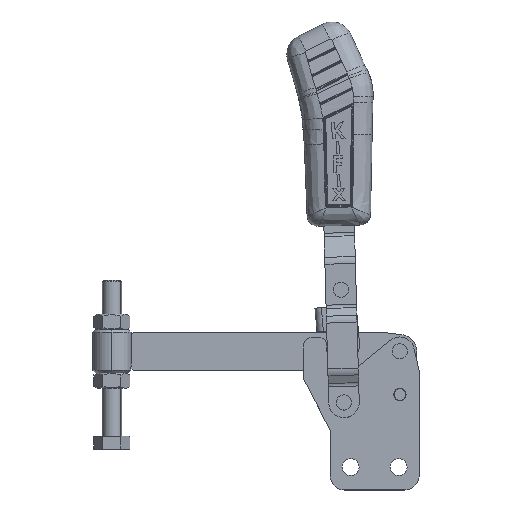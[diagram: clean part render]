
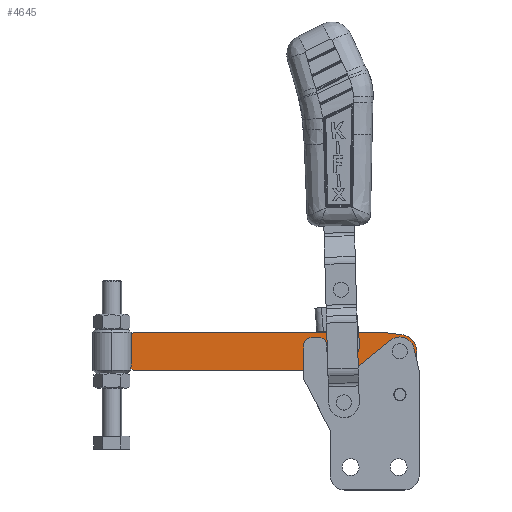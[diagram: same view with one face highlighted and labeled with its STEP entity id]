
A CAD part, top view. The second image highlights one B-rep face of the part: STEP entity #4645.
In plain terms, the highlighted planar face has unit normal (0, 0, 1) as drawn and (0, 0, -1) by its records, which use the part's own axes.
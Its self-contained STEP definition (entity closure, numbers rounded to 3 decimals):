
#159 = CARTESIAN_POINT ( 'NONE',  ( -1., 8., -6.35 ) ) ;
#628 = LINE ( 'NONE', #21246, #18148 ) ;
#853 = VERTEX_POINT ( 'NONE', #18232 ) ;
#918 = ORIENTED_EDGE ( 'NONE', *, *, #16317, .F. ) ;
#1201 = VECTOR ( 'NONE', #4287, 1000. ) ;
#1224 = DIRECTION ( 'NONE',  ( 1., 0., 0. ) ) ;
#1349 = VERTEX_POINT ( 'NONE', #4240 ) ;
#1619 = CIRCLE ( 'NONE', #7557, 2.45 ) ;
#1624 = EDGE_CURVE ( 'NONE', #17035, #853, #6027, .T. ) ;
#1768 = ORIENTED_EDGE ( 'NONE', *, *, #16146, .F. ) ;
#1927 = EDGE_LOOP ( 'NONE', ( #5846, #4398 ) ) ;
#1934 = AXIS2_PLACEMENT_3D ( 'NONE', #18536, #8288, #20231 ) ;
#2002 = DIRECTION ( 'NONE',  ( -0.993, -0.119, 0. ) ) ;
#2075 = VECTOR ( 'NONE', #21258, 1000. ) ;
#2086 = CARTESIAN_POINT ( 'NONE',  ( 0., -8., -6.35 ) ) ;
#2483 = CARTESIAN_POINT ( 'NONE',  ( -119., -2.236, -6.35 ) ) ;
#2525 = ORIENTED_EDGE ( 'NONE', *, *, #1624, .T. ) ;
#2698 = DIRECTION ( 'NONE',  ( 1., 0., 0. ) ) ;
#2810 = DIRECTION ( 'NONE',  ( 0., 0., 1. ) ) ;
#2884 = CARTESIAN_POINT ( 'NONE',  ( -103.762, 3., -6.35 ) ) ;
#3105 = DIRECTION ( 'NONE',  ( 1., 0., 0. ) ) ;
#3179 = DIRECTION ( 'NONE',  ( 0., 0., 1. ) ) ;
#3262 = EDGE_CURVE ( 'NONE', #20707, #1349, #8357, .T. ) ;
#3310 = CARTESIAN_POINT ( 'NONE',  ( -103.762, 8., -6.35 ) ) ;
#3399 = CARTESIAN_POINT ( 'NONE',  ( -114., -2.236, -6.35 ) ) ;
#3857 = VECTOR ( 'NONE', #6346, 1000. ) ;
#4198 = VECTOR ( 'NONE', #2002, 1000. ) ;
#4240 = CARTESIAN_POINT ( 'NONE',  ( -1., -8., -6.35 ) ) ;
#4257 = CARTESIAN_POINT ( 'NONE',  ( -112., -8., -6.35 ) ) ;
#4287 = DIRECTION ( 'NONE',  ( 1., 0., 0. ) ) ;
#4335 = CIRCLE ( 'NONE', #4402, 5. ) ;
#4398 = ORIENTED_EDGE ( 'NONE', *, *, #17485, .T. ) ;
#4402 = AXIS2_PLACEMENT_3D ( 'NONE', #3399, #3179, #3105 ) ;
#4480 = EDGE_CURVE ( 'NONE', #7673, #7408, #9884, .T. ) ;
#4606 = CARTESIAN_POINT ( 'NONE',  ( -112.832, 6.95, -6.35 ) ) ;
#4620 = EDGE_CURVE ( 'NONE', #12025, #13768, #4335, .T. ) ;
#4645 = ADVANCED_FACE ( 'NONE', ( #16889, #12826, #7798 ), #10775, .F. ) ;
#5010 = DIRECTION ( 'NONE',  ( -1., 0., 0. ) ) ;
#5111 = CARTESIAN_POINT ( 'NONE',  ( 0., 8., -6.35 ) ) ;
#5341 = CARTESIAN_POINT ( 'NONE',  ( -112., -8., -6.35 ) ) ;
#5846 = ORIENTED_EDGE ( 'NONE', *, *, #14047, .T. ) ;
#6027 = LINE ( 'NONE', #16192, #2075 ) ;
#6302 = CARTESIAN_POINT ( 'NONE',  ( -1., -8., -6.35 ) ) ;
#6346 = DIRECTION ( 'NONE',  ( -0.707, -0.707, 0. ) ) ;
#6650 = CARTESIAN_POINT ( 'NONE',  ( -109.55, 0., -6.35 ) ) ;
#6702 = DIRECTION ( 'NONE',  ( 0., 0., 1. ) ) ;
#6705 = CARTESIAN_POINT ( 'NONE',  ( -89.3, 1.5, -6.35 ) ) ;
#6841 = AXIS2_PLACEMENT_3D ( 'NONE', #9390, #21367, #11109 ) ;
#6867 = VERTEX_POINT ( 'NONE', #5341 ) ;
#7348 = ORIENTED_EDGE ( 'NONE', *, *, #4480, .F. ) ;
#7408 = VERTEX_POINT ( 'NONE', #12199 ) ;
#7557 = AXIS2_PLACEMENT_3D ( 'NONE', #6705, #18657, #8422 ) ;
#7574 = VERTEX_POINT ( 'NONE', #8060 ) ;
#7622 = CARTESIAN_POINT ( 'NONE',  ( -112., 0., -6.35 ) ) ;
#7673 = VERTEX_POINT ( 'NONE', #3310 ) ;
#7798 = FACE_OUTER_BOUND ( 'NONE', #16551, .T. ) ;
#7834 = AXIS2_PLACEMENT_3D ( 'NONE', #2884, #2810, #2698 ) ;
#8060 = CARTESIAN_POINT ( 'NONE',  ( -114.45, 0., -6.35 ) ) ;
#8288 = DIRECTION ( 'NONE',  ( 0., 0., 1. ) ) ;
#8357 = LINE ( 'NONE', #6302, #3857 ) ;
#8422 = DIRECTION ( 'NONE',  ( 1., 0., 0. ) ) ;
#8569 = ORIENTED_EDGE ( 'NONE', *, *, #11404, .F. ) ;
#9040 = EDGE_CURVE ( 'NONE', #19675, #12025, #628, .T. ) ;
#9297 = DIRECTION ( 'NONE',  ( 1., 0., 0. ) ) ;
#9390 = CARTESIAN_POINT ( 'NONE',  ( -112., 0., -6.35 ) ) ;
#9884 = CIRCLE ( 'NONE', #10490, 5. ) ;
#9982 = ORIENTED_EDGE ( 'NONE', *, *, #4620, .F. ) ;
#10096 = VECTOR ( 'NONE', #5010, 1000. ) ;
#10477 = EDGE_CURVE ( 'NONE', #20707, #853, #15658, .T. ) ;
#10490 = AXIS2_PLACEMENT_3D ( 'NONE', #12131, #12102, #12031 ) ;
#10775 = PLANE ( 'NONE',  #7834 ) ;
#10887 = CARTESIAN_POINT ( 'NONE',  ( -117.333, -5.963, -6.35 ) ) ;
#11109 = DIRECTION ( 'NONE',  ( 1., 0., 0. ) ) ;
#11223 = ORIENTED_EDGE ( 'NONE', *, *, #10477, .F. ) ;
#11297 = DIRECTION ( 'NONE',  ( 0., 0., 1. ) ) ;
#11404 = EDGE_CURVE ( 'NONE', #17035, #7673, #15223, .T. ) ;
#11446 = EDGE_CURVE ( 'NONE', #6867, #1349, #14673, .T. ) ;
#12025 = VERTEX_POINT ( 'NONE', #2483 ) ;
#12031 = DIRECTION ( 'NONE',  ( 1., 0., 0. ) ) ;
#12102 = DIRECTION ( 'NONE',  ( 0., 0., 1. ) ) ;
#12110 = CARTESIAN_POINT ( 'NONE',  ( -104.356, 7.965, -6.35 ) ) ;
#12131 = CARTESIAN_POINT ( 'NONE',  ( -103.762, 3., -6.35 ) ) ;
#12157 = LINE ( 'NONE', #12110, #4198 ) ;
#12199 = CARTESIAN_POINT ( 'NONE',  ( -104.356, 7.965, -6.35 ) ) ;
#12295 = CARTESIAN_POINT ( 'NONE',  ( 0., -7., -6.35 ) ) ;
#12669 = CARTESIAN_POINT ( 'NONE',  ( -86.85, 1.5, -6.35 ) ) ;
#12810 = ORIENTED_EDGE ( 'NONE', *, *, #9040, .F. ) ;
#12826 = FACE_BOUND ( 'NONE', #1927, .T. ) ;
#13653 = ORIENTED_EDGE ( 'NONE', *, *, #21815, .T. ) ;
#13768 = VERTEX_POINT ( 'NONE', #10887 ) ;
#13774 = CIRCLE ( 'NONE', #14149, 8. ) ;
#13839 = EDGE_CURVE ( 'NONE', #18387, #19675, #14060, .T. ) ;
#14047 = EDGE_CURVE ( 'NONE', #14082, #7574, #15413, .T. ) ;
#14057 = CARTESIAN_POINT ( 'NONE',  ( -91.75, 1.5, -6.35 ) ) ;
#14060 = CIRCLE ( 'NONE', #6841, 7. ) ;
#14082 = VERTEX_POINT ( 'NONE', #6650 ) ;
#14149 = AXIS2_PLACEMENT_3D ( 'NONE', #7622, #19559, #9297 ) ;
#14633 = EDGE_LOOP ( 'NONE', ( #15802, #13653 ) ) ;
#14673 = LINE ( 'NONE', #4257, #1201 ) ;
#14849 = CIRCLE ( 'NONE', #16288, 2.45 ) ;
#15223 = LINE ( 'NONE', #5111, #10096 ) ;
#15290 = CARTESIAN_POINT ( 'NONE',  ( -119., 0., -6.35 ) ) ;
#15366 = CIRCLE ( 'NONE', #18928, 2.45 ) ;
#15413 = CIRCLE ( 'NONE', #1934, 2.45 ) ;
#15562 = ORIENTED_EDGE ( 'NONE', *, *, #3262, .T. ) ;
#15658 = LINE ( 'NONE', #2086, #15840 ) ;
#15685 = ORIENTED_EDGE ( 'NONE', *, *, #11446, .F. ) ;
#15802 = ORIENTED_EDGE ( 'NONE', *, *, #21495, .T. ) ;
#15840 = VECTOR ( 'NONE', #19093, 1000. ) ;
#16146 = EDGE_CURVE ( 'NONE', #13768, #6867, #13774, .T. ) ;
#16192 = CARTESIAN_POINT ( 'NONE',  ( 0., 7., -6.35 ) ) ;
#16288 = AXIS2_PLACEMENT_3D ( 'NONE', #21548, #11297, #1224 ) ;
#16317 = EDGE_CURVE ( 'NONE', #7408, #18387, #12157, .T. ) ;
#16551 = EDGE_LOOP ( 'NONE', ( #11223, #15562, #15685, #1768, #9982, #12810, #20171, #918, #7348, #8569, #2525 ) ) ;
#16889 = FACE_BOUND ( 'NONE', #14633, .T. ) ;
#16961 = CARTESIAN_POINT ( 'NONE',  ( -112., 0., -6.35 ) ) ;
#17035 = VERTEX_POINT ( 'NONE', #159 ) ;
#17309 = VERTEX_POINT ( 'NONE', #12669 ) ;
#17485 = EDGE_CURVE ( 'NONE', #7574, #14082, #15366, .T. ) ;
#18148 = VECTOR ( 'NONE', #21175, 1000. ) ;
#18232 = CARTESIAN_POINT ( 'NONE',  ( 0., 7., -6.35 ) ) ;
#18387 = VERTEX_POINT ( 'NONE', #4606 ) ;
#18536 = CARTESIAN_POINT ( 'NONE',  ( -112., 0., -6.35 ) ) ;
#18655 = DIRECTION ( 'NONE',  ( 1., 0., 0. ) ) ;
#18657 = DIRECTION ( 'NONE',  ( 0., 0., 1. ) ) ;
#18928 = AXIS2_PLACEMENT_3D ( 'NONE', #16961, #6702, #18655 ) ;
#19093 = DIRECTION ( 'NONE',  ( 0., 1., 0. ) ) ;
#19559 = DIRECTION ( 'NONE',  ( 0., 0., 1. ) ) ;
#19675 = VERTEX_POINT ( 'NONE', #15290 ) ;
#19773 = VERTEX_POINT ( 'NONE', #14057 ) ;
#20171 = ORIENTED_EDGE ( 'NONE', *, *, #13839, .F. ) ;
#20231 = DIRECTION ( 'NONE',  ( 1., 0., 0. ) ) ;
#20707 = VERTEX_POINT ( 'NONE', #12295 ) ;
#21175 = DIRECTION ( 'NONE',  ( 0., -1., 0. ) ) ;
#21246 = CARTESIAN_POINT ( 'NONE',  ( -119., 0., -6.35 ) ) ;
#21258 = DIRECTION ( 'NONE',  ( 0.707, -0.707, 0. ) ) ;
#21367 = DIRECTION ( 'NONE',  ( 0., 0., 1. ) ) ;
#21495 = EDGE_CURVE ( 'NONE', #17309, #19773, #1619, .T. ) ;
#21548 = CARTESIAN_POINT ( 'NONE',  ( -89.3, 1.5, -6.35 ) ) ;
#21815 = EDGE_CURVE ( 'NONE', #19773, #17309, #14849, .T. ) ;
